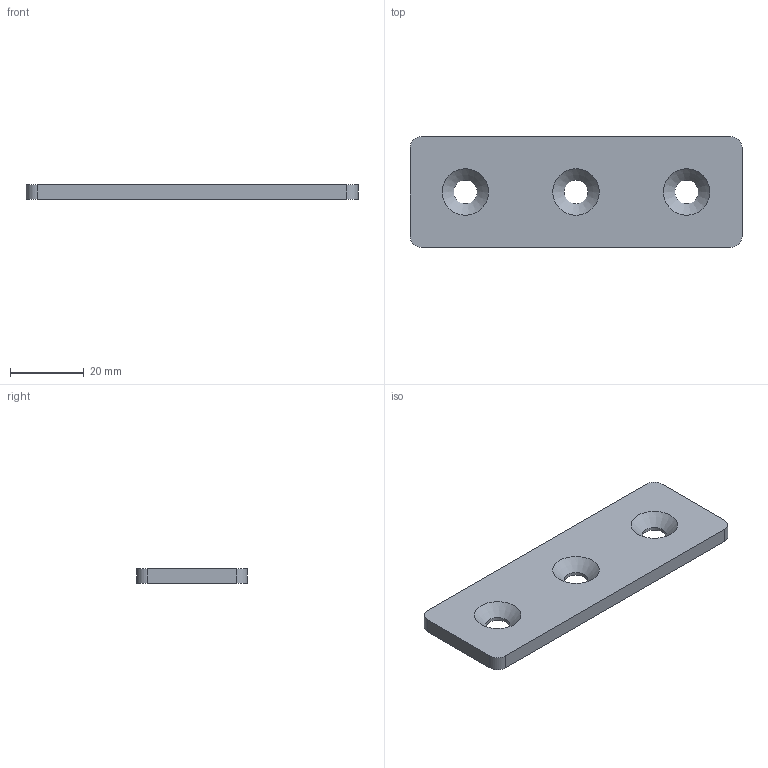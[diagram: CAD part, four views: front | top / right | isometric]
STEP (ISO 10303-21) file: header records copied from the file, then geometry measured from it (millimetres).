
FILE_DESCRIPTION(/* description */ ('STEP AP203'),/* implementation_level */ '2;1');
FILE_NAME(/* name */ '093V3090Ahigh',/* time_stamp */ '2025-02-04T14:31:41+01:00',/* author */ ('License CC BY-ND 4.0'),/* organization */ ('CADENAS'),/* preprocessor_version */ 'ST-DEVELOPER v19.3',/* originating_system */ 'PARTsolutions',/* authorisation */ ' ');
FILE_SCHEMA (('CONFIG_CONTROL_DESIGN'));
Length unit declared in the file: millimetre
Products named in the file (1): 093V3090Ahigh
Bounding box: 90 x 30 x 4 mm (x, y, z)
Volume: 9995.5 mm3; surface area: 6300.3 mm2
Topology: 1 solids, 1 shells, 16 faces, 39 edges, 25 vertices
Faces by surface type: cylinder 7, plane 6, cone 3
Full cylindrical faces by diameter (mm): 6.4 x3
Entity records: 488 total; most frequent: DIRECTION 84, CARTESIAN_POINT 75, ORIENTED_EDGE 66, AXIS2_PLACEMENT_3D 34, EDGE_CURVE 33, EDGE_LOOP 28, FACE_BOUND 28, VERTEX_POINT 25
